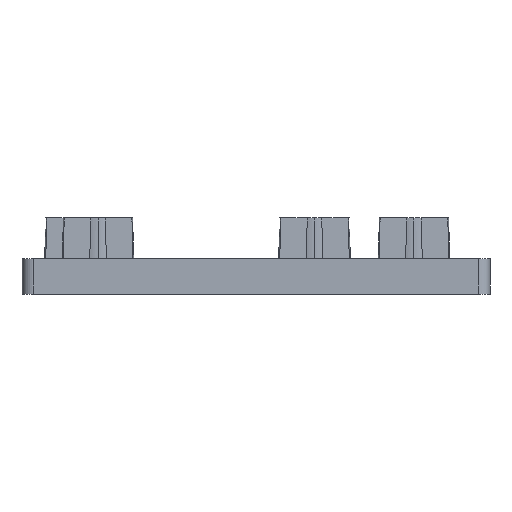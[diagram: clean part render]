
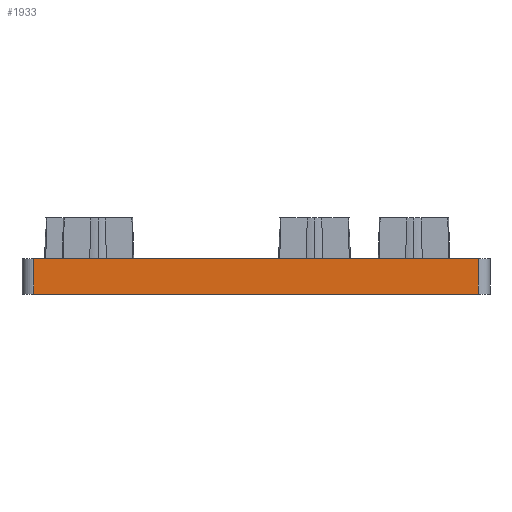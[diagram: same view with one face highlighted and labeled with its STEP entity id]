
A CAD part, left-side view. The second image highlights one B-rep face of the part: STEP entity #1933.
In plain terms, the highlighted planar face has unit normal (-1, 0, 0).
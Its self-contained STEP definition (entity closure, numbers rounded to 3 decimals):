
#464 = DIRECTION ( 'NONE',  ( 0., 0., 1. ) ) ;
#478 = VECTOR ( 'NONE', #623, 1000. ) ;
#490 = CARTESIAN_POINT ( 'NONE',  ( -20., 19., 3. ) ) ;
#551 = CARTESIAN_POINT ( 'NONE',  ( -20., -19., 3. ) ) ;
#623 = DIRECTION ( 'NONE',  ( 0., -1., 0. ) ) ;
#712 = CARTESIAN_POINT ( 'NONE',  ( -20., -19., 0. ) ) ;
#740 = DIRECTION ( 'NONE',  ( 0., 0., 1. ) ) ;
#805 = CARTESIAN_POINT ( 'NONE',  ( -20., -19., 0. ) ) ;
#934 = FACE_OUTER_BOUND ( 'NONE', #2056, .T. ) ;
#963 = VERTEX_POINT ( 'NONE', #490 ) ;
#1083 = ORIENTED_EDGE ( 'NONE', *, *, #2347, .F. ) ;
#1154 = DIRECTION ( 'NONE',  ( 0., -1., 0. ) ) ;
#1170 = AXIS2_PLACEMENT_3D ( 'NONE', #1634, #2545, #464 ) ;
#1181 = DIRECTION ( 'NONE',  ( 0., 0., -1. ) ) ;
#1399 = ORIENTED_EDGE ( 'NONE', *, *, #1738, .T. ) ;
#1409 = LINE ( 'NONE', #2350, #1888 ) ;
#1506 = CARTESIAN_POINT ( 'NONE',  ( -20., 19., 0. ) ) ;
#1513 = CARTESIAN_POINT ( 'NONE',  ( -20., 20., 0. ) ) ;
#1634 = CARTESIAN_POINT ( 'NONE',  ( -20., 20., 0. ) ) ;
#1738 = EDGE_CURVE ( 'NONE', #2147, #2644, #2017, .T. ) ;
#1888 = VECTOR ( 'NONE', #1181, 1000. ) ;
#1906 = CARTESIAN_POINT ( 'NONE',  ( -20., 0., 3. ) ) ;
#1933 = ADVANCED_FACE ( 'NONE', ( #934 ), #2804, .T. ) ;
#2017 = LINE ( 'NONE', #1513, #478 ) ;
#2053 = ORIENTED_EDGE ( 'NONE', *, *, #2384, .T. ) ;
#2056 = EDGE_LOOP ( 'NONE', ( #2266, #1083, #2053, #1399 ) ) ;
#2147 = VERTEX_POINT ( 'NONE', #1506 ) ;
#2266 = ORIENTED_EDGE ( 'NONE', *, *, #2424, .T. ) ;
#2347 = EDGE_CURVE ( 'NONE', #963, #2604, #2601, .T. ) ;
#2350 = CARTESIAN_POINT ( 'NONE',  ( -20., 19., 0. ) ) ;
#2384 = EDGE_CURVE ( 'NONE', #963, #2147, #1409, .T. ) ;
#2422 = VECTOR ( 'NONE', #740, 1000. ) ;
#2424 = EDGE_CURVE ( 'NONE', #2644, #2604, #2852, .T. ) ;
#2545 = DIRECTION ( 'NONE',  ( -1., 0., 0. ) ) ;
#2573 = VECTOR ( 'NONE', #1154, 1000. ) ;
#2601 = LINE ( 'NONE', #1906, #2573 ) ;
#2604 = VERTEX_POINT ( 'NONE', #551 ) ;
#2644 = VERTEX_POINT ( 'NONE', #805 ) ;
#2804 = PLANE ( 'NONE',  #1170 ) ;
#2852 = LINE ( 'NONE', #712, #2422 ) ;
